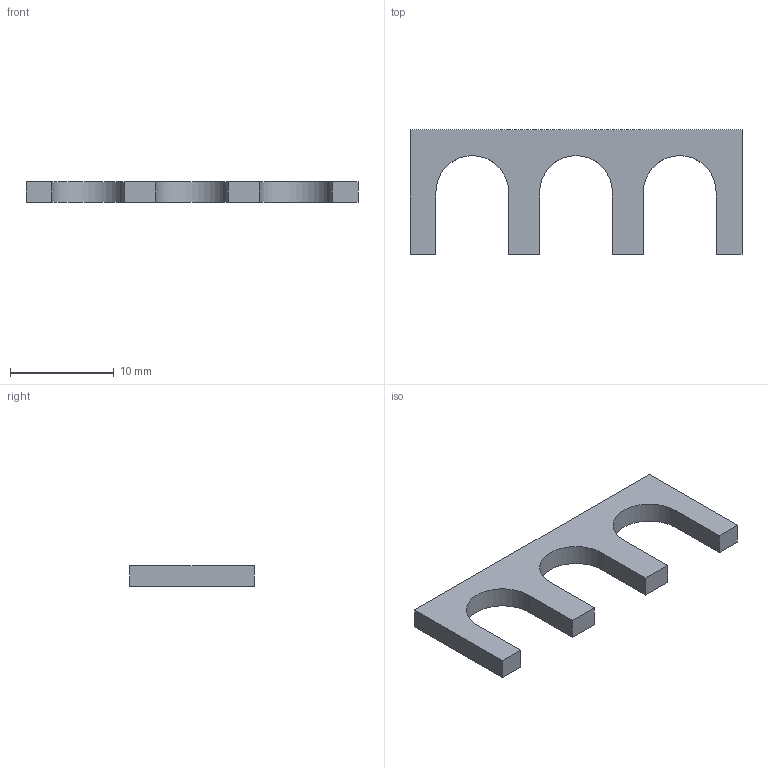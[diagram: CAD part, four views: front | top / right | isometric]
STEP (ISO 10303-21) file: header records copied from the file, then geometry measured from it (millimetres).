
FILE_DESCRIPTION(('CATIA V5 STEP Exchange'),'2;1');
FILE_NAME('\\192.168.198.2\Mechanus\KONSTRUKCE-MONTAZ\PRODUKTY MECHANUS\MS006-SERIZOVACI PRVKY\ADMINISTRATIVA\podklady\simsy modely\MECHANUS šimsy\Mechanus--simsa--12x32 tl.2 (1232-200).stp','2024-03-13T12:27:28+00:00',('none'),('none'),'CATIA Version 5 Release 19 GA (IN-10)','CATIA V5 STEP AP203','none');
FILE_SCHEMA(('CONFIG_CONTROL_DESIGN'));
Length unit declared in the file: millimetre
Products named in the file (1): Mechanus--simsa--12x32 tl.2 (1232-200)
Bounding box: 32 x 12 x 2 mm (x, y, z)
Volume: 400.5 mm3; surface area: 672.5 mm2
Topology: 1 solids, 1 shells, 18 faces, 48 edges, 32 vertices
Faces by surface type: plane 15, cylinder 3
Entity records: 579 total; most frequent: CARTESIAN_POINT 96, ORIENTED_EDGE 96, DIRECTION 78, EDGE_CURVE 48, VECTOR 42, LINE 42, VERTEX_POINT 32, AXIS2_PLACEMENT_3D 22
